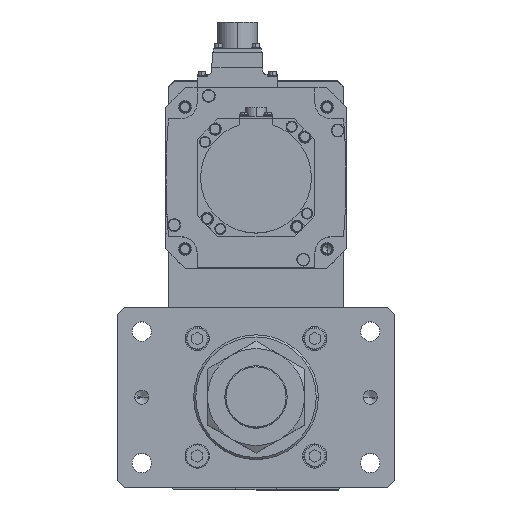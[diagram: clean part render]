
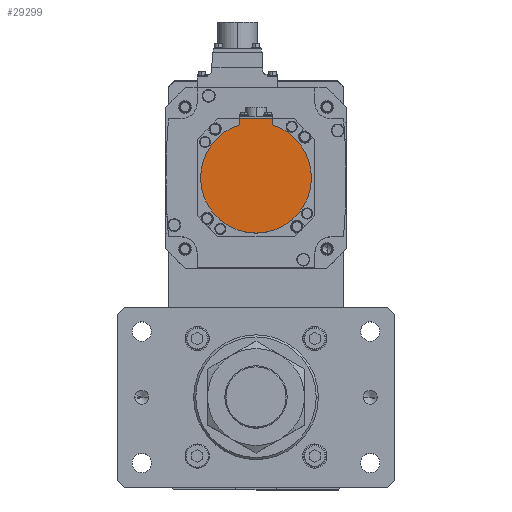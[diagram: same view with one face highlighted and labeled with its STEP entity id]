
A CAD part, top view. The second image highlights one B-rep face of the part: STEP entity #29299.
In plain terms, the highlighted planar face has unit normal (0, 0, 1) as drawn and (0, 0, -1) by its records, which use the part's own axes.
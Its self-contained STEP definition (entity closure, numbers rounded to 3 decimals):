
#127 = VERTEX_POINT ( 'NONE', #25247 ) ;
#767 = ORIENTED_EDGE ( 'NONE', *, *, #33110, .T. ) ;
#802 = DIRECTION ( 'NONE',  ( 0., 1., 0. ) ) ;
#921 = CARTESIAN_POINT ( 'NONE',  ( -12., -40.329, -146.5 ) ) ;
#1650 = CARTESIAN_POINT ( 'NONE',  ( 40., 0., -146.5 ) ) ;
#2235 = DIRECTION ( 'NONE',  ( 1., 0., 0. ) ) ;
#4921 = VECTOR ( 'NONE', #31211, 1000. ) ;
#6876 = CARTESIAN_POINT ( 'NONE',  ( 0., -1.249, -146.5 ) ) ;
#7586 = CARTESIAN_POINT ( 'NONE',  ( -40., 0., -146.5 ) ) ;
#8035 = VERTEX_POINT ( 'NONE', #17482 ) ;
#9351 = VECTOR ( 'NONE', #13963, 1000. ) ;
#9998 = EDGE_LOOP ( 'NONE', ( #11051, #27913, #14557, #26794, #31035, #767 ) ) ;
#10293 = CARTESIAN_POINT ( 'NONE',  ( -12., -42.5, -146.5 ) ) ;
#10373 = CARTESIAN_POINT ( 'NONE',  ( 0., 0., -146.5 ) ) ;
#10403 = DIRECTION ( 'NONE',  ( 0., 0., 1. ) ) ;
#11051 = ORIENTED_EDGE ( 'NONE', *, *, #26257, .T. ) ;
#11660 = AXIS2_PLACEMENT_3D ( 'NONE', #6876, #20188, #17286 ) ;
#12908 = VERTEX_POINT ( 'NONE', #10293 ) ;
#12977 = CIRCLE ( 'NONE', #21011, 40. ) ;
#13963 = DIRECTION ( 'NONE',  ( -1., 0., 0. ) ) ;
#14557 = ORIENTED_EDGE ( 'NONE', *, *, #27832, .F. ) ;
#14602 = VECTOR ( 'NONE', #802, 1000. ) ;
#15121 = CARTESIAN_POINT ( 'NONE',  ( 12., -1.249, -146.5 ) ) ;
#15552 = CARTESIAN_POINT ( 'NONE',  ( 0., 0., -146.5 ) ) ;
#17286 = DIRECTION ( 'NONE',  ( 1., 0., 0. ) ) ;
#17482 = CARTESIAN_POINT ( 'NONE',  ( 12., -42.5, -146.5 ) ) ;
#18119 = CARTESIAN_POINT ( 'NONE',  ( 0., 0., -146.5 ) ) ;
#18240 = DIRECTION ( 'NONE',  ( 0., 0., 1. ) ) ;
#18261 = AXIS2_PLACEMENT_3D ( 'NONE', #18119, #10403, #21697 ) ;
#18699 = CIRCLE ( 'NONE', #18261, 40. ) ;
#20004 = CARTESIAN_POINT ( 'NONE',  ( 12., -38.158, -146.5 ) ) ;
#20188 = DIRECTION ( 'NONE',  ( 0., 0., 1. ) ) ;
#20386 = AXIS2_PLACEMENT_3D ( 'NONE', #10373, #29015, #21216 ) ;
#21011 = AXIS2_PLACEMENT_3D ( 'NONE', #15552, #18240, #2235 ) ;
#21216 = DIRECTION ( 'NONE',  ( 1., 0., 0. ) ) ;
#21697 = DIRECTION ( 'NONE',  ( 1., 0., 0. ) ) ;
#22196 = VERTEX_POINT ( 'NONE', #20004 ) ;
#22334 = EDGE_CURVE ( 'NONE', #8035, #22196, #30356, .T. ) ;
#22532 = LINE ( 'NONE', #921, #14602 ) ;
#22910 = EDGE_CURVE ( 'NONE', #22196, #25967, #18699, .T. ) ;
#23294 = CIRCLE ( 'NONE', #20386, 40. ) ;
#25247 = CARTESIAN_POINT ( 'NONE',  ( -12., -38.158, -146.5 ) ) ;
#25967 = VERTEX_POINT ( 'NONE', #1650 ) ;
#26116 = EDGE_CURVE ( 'NONE', #26604, #127, #12977, .T. ) ;
#26257 = EDGE_CURVE ( 'NONE', #12908, #127, #22532, .T. ) ;
#26604 = VERTEX_POINT ( 'NONE', #7586 ) ;
#26794 = ORIENTED_EDGE ( 'NONE', *, *, #22910, .F. ) ;
#27832 = EDGE_CURVE ( 'NONE', #25967, #26604, #23294, .T. ) ;
#27913 = ORIENTED_EDGE ( 'NONE', *, *, #26116, .F. ) ;
#29015 = DIRECTION ( 'NONE',  ( 0., 0., 1. ) ) ;
#29299 = ADVANCED_FACE ( 'NONE', ( #29879 ), #32786, .F. ) ;
#29400 = LINE ( 'NONE', #32746, #9351 ) ;
#29879 = FACE_OUTER_BOUND ( 'NONE', #9998, .T. ) ;
#30356 = LINE ( 'NONE', #15121, #4921 ) ;
#31035 = ORIENTED_EDGE ( 'NONE', *, *, #22334, .F. ) ;
#31211 = DIRECTION ( 'NONE',  ( 0., 1., 0. ) ) ;
#32746 = CARTESIAN_POINT ( 'NONE',  ( 0., -42.5, -146.5 ) ) ;
#32786 = PLANE ( 'NONE',  #11660 ) ;
#33110 = EDGE_CURVE ( 'NONE', #8035, #12908, #29400, .T. ) ;
